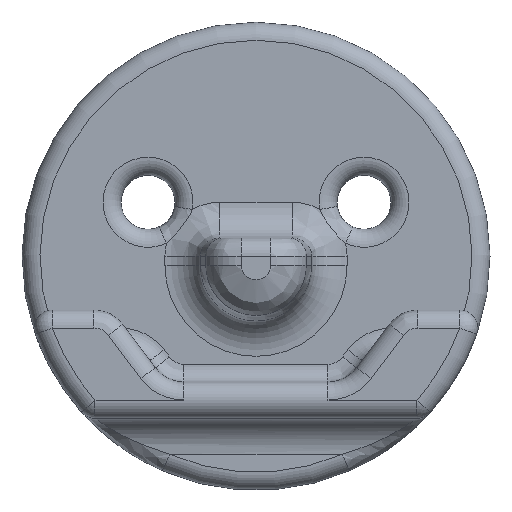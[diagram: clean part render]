
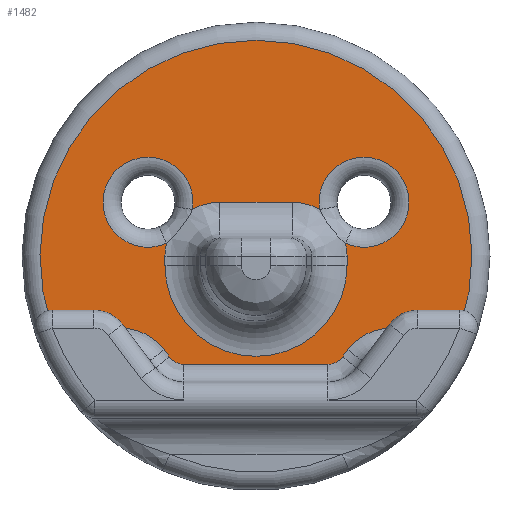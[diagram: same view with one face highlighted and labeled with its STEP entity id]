
A CAD part, top view. The second image highlights one B-rep face of the part: STEP entity #1482.
In plain terms, the highlighted planar face has unit normal (0, 0, 1).
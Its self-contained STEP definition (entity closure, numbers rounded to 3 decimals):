
#35=PLANE('',#1639);
#72=LINE('',#2942,#146);
#74=LINE('',#2946,#148);
#75=LINE('',#2950,#149);
#76=LINE('',#2954,#150);
#77=LINE('',#2958,#151);
#78=LINE('',#2961,#152);
#79=LINE('',#2963,#153);
#80=LINE('',#2966,#154);
#146=VECTOR('',#1970,10.);
#148=VECTOR('',#1974,10.);
#149=VECTOR('',#1977,10.);
#150=VECTOR('',#1980,10.);
#151=VECTOR('',#1983,10.);
#152=VECTOR('',#1986,10.);
#153=VECTOR('',#1987,10.);
#154=VECTOR('',#1990,10.);
#200=FACE_BOUND('',#446,.T.);
#245=ELLIPSE('',#1550,3.046,3.);
#247=ELLIPSE('',#1554,3.046,3.);
#248=ELLIPSE('',#1562,3.046,3.);
#250=ELLIPSE('',#1566,3.046,3.);
#337=FACE_OUTER_BOUND('',#445,.T.);
#445=EDGE_LOOP('',(#1161,#1162,#1163,#1164,#1165,#1166,#1167,#1168,#1169,
#1170));
#446=EDGE_LOOP('',(#1171,#1172,#1173,#1174,#1175,#1176,#1177,#1178,#1179,
#1180));
#513=CIRCLE('',#1549,2.5);
#520=CIRCLE('',#1561,2.5);
#538=CIRCLE('',#1589,12.);
#568=CIRCLE('',#1640,3.);
#569=CIRCLE('',#1641,1.);
#570=CIRCLE('',#1642,1.);
#571=CIRCLE('',#1643,3.);
#572=CIRCLE('',#1644,5.06);
#626=VERTEX_POINT('',#2253);
#629=VERTEX_POINT('',#2258);
#630=VERTEX_POINT('',#2333);
#633=VERTEX_POINT('',#2339);
#635=VERTEX_POINT('',#2346);
#638=VERTEX_POINT('',#2351);
#639=VERTEX_POINT('',#2426);
#642=VERTEX_POINT('',#2432);
#670=VERTEX_POINT('',#2641);
#671=VERTEX_POINT('',#2650);
#699=VERTEX_POINT('',#2945);
#700=VERTEX_POINT('',#2947);
#701=VERTEX_POINT('',#2949);
#702=VERTEX_POINT('',#2951);
#703=VERTEX_POINT('',#2953);
#704=VERTEX_POINT('',#2955);
#705=VERTEX_POINT('',#2957);
#706=VERTEX_POINT('',#2959);
#707=VERTEX_POINT('',#2962);
#708=VERTEX_POINT('',#2964);
#757=EDGE_CURVE('',#629,#626,#513,.T.);
#760=EDGE_CURVE('',#626,#630,#245,.T.);
#764=EDGE_CURVE('',#633,#629,#247,.T.);
#769=EDGE_CURVE('',#638,#635,#520,.T.);
#772=EDGE_CURVE('',#635,#639,#248,.T.);
#776=EDGE_CURVE('',#642,#638,#250,.T.);
#811=EDGE_CURVE('',#671,#670,#538,.T.);
#863=EDGE_CURVE('',#639,#633,#72,.T.);
#865=EDGE_CURVE('',#699,#671,#74,.T.);
#866=EDGE_CURVE('',#700,#699,#568,.T.);
#867=EDGE_CURVE('',#701,#700,#75,.T.);
#868=EDGE_CURVE('',#702,#701,#569,.T.);
#869=EDGE_CURVE('',#703,#702,#76,.T.);
#870=EDGE_CURVE('',#704,#703,#570,.T.);
#871=EDGE_CURVE('',#705,#704,#77,.T.);
#872=EDGE_CURVE('',#706,#705,#571,.T.);
#873=EDGE_CURVE('',#670,#706,#78,.T.);
#874=EDGE_CURVE('',#707,#642,#79,.T.);
#875=EDGE_CURVE('',#708,#707,#572,.T.);
#876=EDGE_CURVE('',#630,#708,#80,.T.);
#1161=ORIENTED_EDGE('',*,*,#811,.F.);
#1162=ORIENTED_EDGE('',*,*,#865,.F.);
#1163=ORIENTED_EDGE('',*,*,#866,.F.);
#1164=ORIENTED_EDGE('',*,*,#867,.F.);
#1165=ORIENTED_EDGE('',*,*,#868,.F.);
#1166=ORIENTED_EDGE('',*,*,#869,.F.);
#1167=ORIENTED_EDGE('',*,*,#870,.F.);
#1168=ORIENTED_EDGE('',*,*,#871,.F.);
#1169=ORIENTED_EDGE('',*,*,#872,.F.);
#1170=ORIENTED_EDGE('',*,*,#873,.F.);
#1171=ORIENTED_EDGE('',*,*,#757,.F.);
#1172=ORIENTED_EDGE('',*,*,#764,.F.);
#1173=ORIENTED_EDGE('',*,*,#863,.F.);
#1174=ORIENTED_EDGE('',*,*,#772,.F.);
#1175=ORIENTED_EDGE('',*,*,#769,.F.);
#1176=ORIENTED_EDGE('',*,*,#776,.F.);
#1177=ORIENTED_EDGE('',*,*,#874,.F.);
#1178=ORIENTED_EDGE('',*,*,#875,.F.);
#1179=ORIENTED_EDGE('',*,*,#876,.F.);
#1180=ORIENTED_EDGE('',*,*,#760,.F.);
#1482=ADVANCED_FACE('',(#337,#200),#35,.T.);
#1549=AXIS2_PLACEMENT_3D('',#2260,#1765,#1766);
#1550=AXIS2_PLACEMENT_3D('',#2334,#1767,#1768);
#1554=AXIS2_PLACEMENT_3D('',#2341,#1775,#1776);
#1561=AXIS2_PLACEMENT_3D('',#2353,#1789,#1790);
#1562=AXIS2_PLACEMENT_3D('',#2427,#1791,#1792);
#1566=AXIS2_PLACEMENT_3D('',#2434,#1799,#1800);
#1589=AXIS2_PLACEMENT_3D('',#2652,#1853,#1854);
#1639=AXIS2_PLACEMENT_3D('',#2944,#1972,#1973);
#1640=AXIS2_PLACEMENT_3D('',#2948,#1975,#1976);
#1641=AXIS2_PLACEMENT_3D('',#2952,#1978,#1979);
#1642=AXIS2_PLACEMENT_3D('',#2956,#1981,#1982);
#1643=AXIS2_PLACEMENT_3D('',#2960,#1984,#1985);
#1644=AXIS2_PLACEMENT_3D('',#2965,#1988,#1989);
#1765=DIRECTION('center_axis',(0.,0.,1.));
#1766=DIRECTION('ref_axis',(1.,0.,0.));
#1767=DIRECTION('center_axis',(0.,0.,1.));
#1768=DIRECTION('ref_axis',(1.,0.,0.));
#1775=DIRECTION('center_axis',(0.,0.,1.));
#1776=DIRECTION('ref_axis',(1.,0.,0.));
#1789=DIRECTION('center_axis',(0.,0.,1.));
#1790=DIRECTION('ref_axis',(1.,0.,0.));
#1791=DIRECTION('center_axis',(0.,0.,1.));
#1792=DIRECTION('ref_axis',(1.,0.,0.));
#1799=DIRECTION('center_axis',(0.,0.,1.));
#1800=DIRECTION('ref_axis',(1.,0.,0.));
#1853=DIRECTION('center_axis',(0.,0.,-1.));
#1854=DIRECTION('ref_axis',(0.,1.,0.));
#1970=DIRECTION('',(-1.,0.,0.));
#1972=DIRECTION('center_axis',(0.,0.,1.));
#1973=DIRECTION('ref_axis',(1.,0.,0.));
#1974=DIRECTION('',(-1.,0.,0.));
#1975=DIRECTION('center_axis',(0.,0.,1.));
#1976=DIRECTION('ref_axis',(0.447,0.894,0.));
#1977=DIRECTION('',(-0.6,0.8,0.));
#1978=DIRECTION('center_axis',(0.,0.,-1.));
#1979=DIRECTION('ref_axis',(-0.447,-0.894,0.));
#1980=DIRECTION('',(-1.,0.,0.));
#1981=DIRECTION('center_axis',(0.,0.,-1.));
#1982=DIRECTION('ref_axis',(0.447,-0.894,0.));
#1983=DIRECTION('',(-0.6,-0.8,0.));
#1984=DIRECTION('center_axis',(0.,0.,1.));
#1985=DIRECTION('ref_axis',(-0.447,0.894,0.));
#1986=DIRECTION('',(-1.,0.,0.));
#1987=DIRECTION('',(0.,1.,0.));
#1988=DIRECTION('center_axis',(0.,0.,1.));
#1989=DIRECTION('ref_axis',(0.,-1.,0.));
#1990=DIRECTION('',(0.,-1.,0.));
#2253=CARTESIAN_POINT('',(-4.97,0.722,6.));
#2258=CARTESIAN_POINT('',(-3.532,2.601,6.));
#2260=CARTESIAN_POINT('Origin',(-6.,3.,6.));
#2333=CARTESIAN_POINT('',(-5.06,0.,6.));
#2334=CARTESIAN_POINT('Origin',(-2.014,0.,
6.));
#2339=CARTESIAN_POINT('',(-2.014,3.,6.));
#2341=CARTESIAN_POINT('Origin',(-2.014,0.,
6.));
#2346=CARTESIAN_POINT('',(3.532,2.601,6.));
#2351=CARTESIAN_POINT('',(4.97,0.722,6.));
#2353=CARTESIAN_POINT('Origin',(6.,3.,6.));
#2426=CARTESIAN_POINT('',(2.014,3.,6.));
#2427=CARTESIAN_POINT('Origin',(2.014,0.,6.));
#2432=CARTESIAN_POINT('',(5.06,0.,6.));
#2434=CARTESIAN_POINT('Origin',(2.014,0.,6.));
#2641=CARTESIAN_POINT('',(11.314,-4.,6.));
#2650=CARTESIAN_POINT('',(-11.314,-4.,6.));
#2652=CARTESIAN_POINT('Origin',(0.,0.,6.));
#2942=CARTESIAN_POINT('',(7.5,3.,6.));
#2944=CARTESIAN_POINT('Origin',(0.,-4.,6.));
#2945=CARTESIAN_POINT('',(-7.5,-4.,6.));
#2946=CARTESIAN_POINT('',(0.,-4.,6.));
#2947=CARTESIAN_POINT('',(-5.1,-5.2,6.));
#2948=CARTESIAN_POINT('Origin',(-7.5,-7.,6.));
#2949=CARTESIAN_POINT('',(-4.8,-5.6,6.));
#2950=CARTESIAN_POINT('',(-4.02,-6.64,6.));
#2951=CARTESIAN_POINT('',(-4.,-6.,6.));
#2952=CARTESIAN_POINT('Origin',(-4.,-5.,6.));
#2953=CARTESIAN_POINT('',(4.,-6.,6.));
#2954=CARTESIAN_POINT('',(2.5,-6.,6.));
#2955=CARTESIAN_POINT('',(4.8,-5.6,6.));
#2956=CARTESIAN_POINT('Origin',(4.,-5.,6.));
#2957=CARTESIAN_POINT('',(5.1,-5.2,6.));
#2958=CARTESIAN_POINT('',(5.52,-4.64,6.));
#2959=CARTESIAN_POINT('',(7.5,-4.,6.));
#2960=CARTESIAN_POINT('Origin',(7.5,-7.,6.));
#2961=CARTESIAN_POINT('',(0.,-4.,6.));
#2962=CARTESIAN_POINT('',(5.06,-0.5,6.));
#2963=CARTESIAN_POINT('',(5.06,-2.25,6.));
#2964=CARTESIAN_POINT('',(-5.06,-0.5,6.));
#2965=CARTESIAN_POINT('Origin',(0.,-0.5,6.));
#2966=CARTESIAN_POINT('',(-5.06,-1.5,6.));
